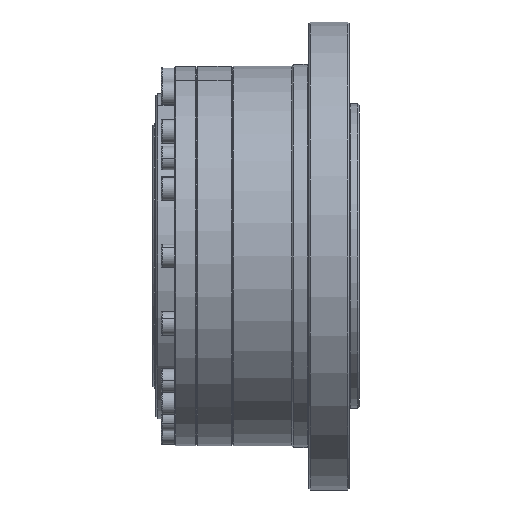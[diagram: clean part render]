
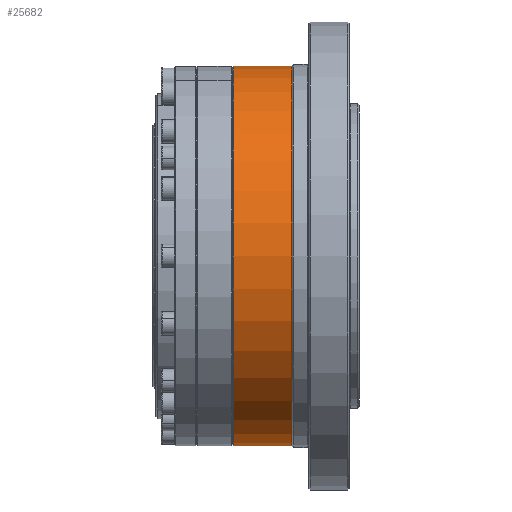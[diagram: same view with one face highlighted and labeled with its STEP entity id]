
A CAD part, front view. The second image highlights one B-rep face of the part: STEP entity #25682.
In plain terms, the highlighted cylindrical face has radius 56 mm (diameter 112 mm), a partial arc.
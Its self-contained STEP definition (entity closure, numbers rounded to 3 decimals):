
#381 = DIRECTION ( 'NONE',  ( 1., 0., 0. ) ) ;
#1103 = EDGE_CURVE ( 'NONE', #11726, #11012, #15447, .T. ) ;
#1187 = CARTESIAN_POINT ( 'NONE',  ( 25.726, 0., -56. ) ) ;
#1364 = AXIS2_PLACEMENT_3D ( 'NONE', #17390, #5214, #19422 ) ;
#2274 = ORIENTED_EDGE ( 'NONE', *, *, #1103, .T. ) ;
#3226 = AXIS2_PLACEMENT_3D ( 'NONE', #16510, #14480, #16427 ) ;
#4491 = ORIENTED_EDGE ( 'NONE', *, *, #14834, .T. ) ;
#4537 = AXIS2_PLACEMENT_3D ( 'NONE', #23545, #11348, #25580 ) ;
#4960 = CYLINDRICAL_SURFACE ( 'NONE', #3226, 56. ) ;
#5214 = DIRECTION ( 'NONE',  ( 1., 0., 0. ) ) ;
#5796 = LINE ( 'NONE', #14079, #21412 ) ;
#6218 = FACE_OUTER_BOUND ( 'NONE', #15599, .T. ) ;
#7860 = CARTESIAN_POINT ( 'NONE',  ( 42.926, 0., 56. ) ) ;
#11012 = VERTEX_POINT ( 'NONE', #1187 ) ;
#11295 = VERTEX_POINT ( 'NONE', #16432 ) ;
#11310 = CIRCLE ( 'NONE', #1364, 56. ) ;
#11348 = DIRECTION ( 'NONE',  ( 1., 0., 0. ) ) ;
#11726 = VERTEX_POINT ( 'NONE', #24432 ) ;
#12134 = LINE ( 'NONE', #24817, #22328 ) ;
#12364 = VERTEX_POINT ( 'NONE', #7860 ) ;
#12859 = ORIENTED_EDGE ( 'NONE', *, *, #14094, .F. ) ;
#14079 = CARTESIAN_POINT ( 'NONE',  ( 63.433, 0., 56. ) ) ;
#14094 = EDGE_CURVE ( 'NONE', #11726, #12364, #5796, .T. ) ;
#14480 = DIRECTION ( 'NONE',  ( 1., 0., 0. ) ) ;
#14834 = EDGE_CURVE ( 'NONE', #11012, #11295, #12134, .T. ) ;
#15447 = CIRCLE ( 'NONE', #4537, 56. ) ;
#15599 = EDGE_LOOP ( 'NONE', ( #12859, #2274, #4491, #23164 ) ) ;
#16111 = DIRECTION ( 'NONE',  ( 1., 0., 0. ) ) ;
#16427 = DIRECTION ( 'NONE',  ( 0., 0., -1. ) ) ;
#16432 = CARTESIAN_POINT ( 'NONE',  ( 42.926, 0., -56. ) ) ;
#16510 = CARTESIAN_POINT ( 'NONE',  ( 63.433, 0., 0. ) ) ;
#17390 = CARTESIAN_POINT ( 'NONE',  ( 42.926, 0., 0. ) ) ;
#19422 = DIRECTION ( 'NONE',  ( 0., 0., -1. ) ) ;
#21412 = VECTOR ( 'NONE', #16111, 1000. ) ;
#22328 = VECTOR ( 'NONE', #381, 1000. ) ;
#23164 = ORIENTED_EDGE ( 'NONE', *, *, #25937, .F. ) ;
#23545 = CARTESIAN_POINT ( 'NONE',  ( 25.726, 0., 0. ) ) ;
#24432 = CARTESIAN_POINT ( 'NONE',  ( 25.726, 0., 56. ) ) ;
#24817 = CARTESIAN_POINT ( 'NONE',  ( 63.433, 0., -56. ) ) ;
#25580 = DIRECTION ( 'NONE',  ( 0., 0., -1. ) ) ;
#25682 = ADVANCED_FACE ( 'NONE', ( #6218 ), #4960, .T. ) ;
#25937 = EDGE_CURVE ( 'NONE', #12364, #11295, #11310, .T. ) ;
